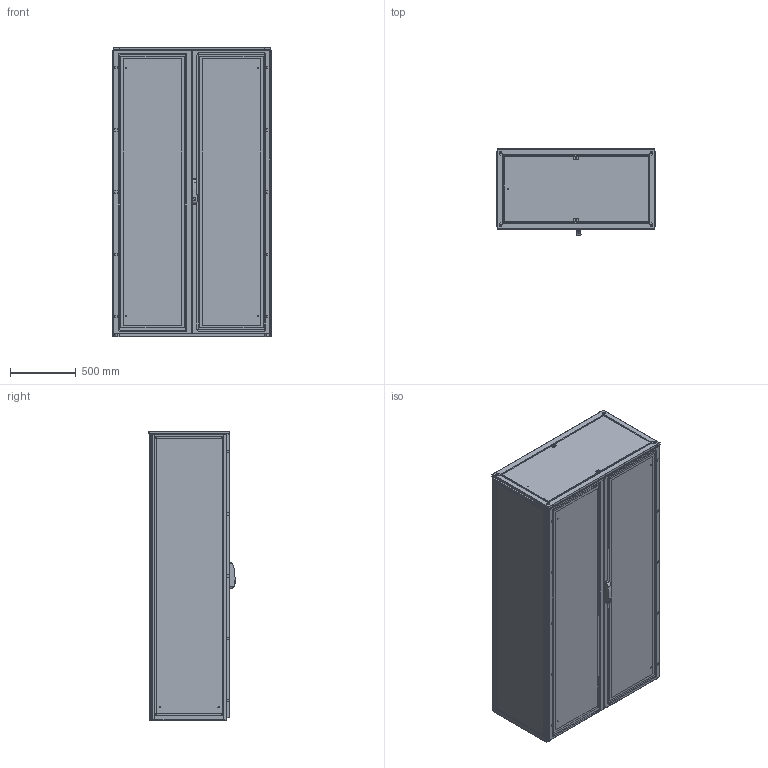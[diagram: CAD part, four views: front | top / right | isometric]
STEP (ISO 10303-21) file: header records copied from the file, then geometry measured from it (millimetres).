
FILE_DESCRIPTION(/* description */ ('STEP AP214'),/* implementation_level */ '2;1');
FILE_NAME(/* name */ 'ENUX122206PR -LOD350',/* time_stamp */ '2025-10-06T09:57:15+02:00',/* author */ ('License CC BY-ND 4.0'),/* organization */ ('CADENAS'),/* preprocessor_version */ 'ST-DEVELOPER v19.3',/* originating_system */ 'PARTsolutions',/* authorisation */ ' ');
FILE_SCHEMA (('AUTOMOTIVE_DESIGN {1 0 10303 214 3 1 1}'));
Length unit declared in the file: millimetre
Products named in the file (11): ENUX122206PR  -LOD350; ENUX122206PR  -LOD3501; ENUX122206PR  -LOD3507; ENUX122206PR  -LOD3502; ENUX122206PR  -LOD35011; ENUX122206PR  -LOD3503; ENUX122206PR  -LOD3508; ENUX122206PR  -LOD3505; ENUX122206PR  -LOD3504; ENUX122206PR  -LOD35010; ENUX122206PR  -LOD3509
Assembly tree (19 placements, depth 2):
  ENUX122206PR  -LOD350
    ENUX122206PR  -LOD3501
    ENUX122206PR  -LOD3507  x2
    ENUX122206PR  -LOD3502
    ENUX122206PR  -LOD35011
    ENUX122206PR  -LOD3503
    ENUX122206PR  -LOD3508
    ENUX122206PR  -LOD3505
    ENUX122206PR  -LOD3504
    ENUX122206PR  -LOD35010  x4
    ENUX122206PR  -LOD3509  x6
Bounding box: 1212 x 657 x 2208.5 mm (x, y, z)
Volume: 32183575.3 mm3; surface area: 27347095.5 mm2
Topology: 19 solids, 26 shells, 1622 faces, 4381 edges, 2868 vertices
Faces by surface type: plane 984, cylinder 588, torus 30, cone 12, sphere 8
Full cylindrical faces by diameter (mm): 6 x15, 9 x13, 12 x4, 14 x2, 17 x2, 28 x2
Entity records: 37022 total; most frequent: CARTESIAN_POINT 6771, DIRECTION 6287, ORIENTED_EDGE 6190, EDGE_CURVE 3095, LINE 2097, VECTOR 2097, AXIS2_PLACEMENT_3D 2095, VERTEX_POINT 2046
